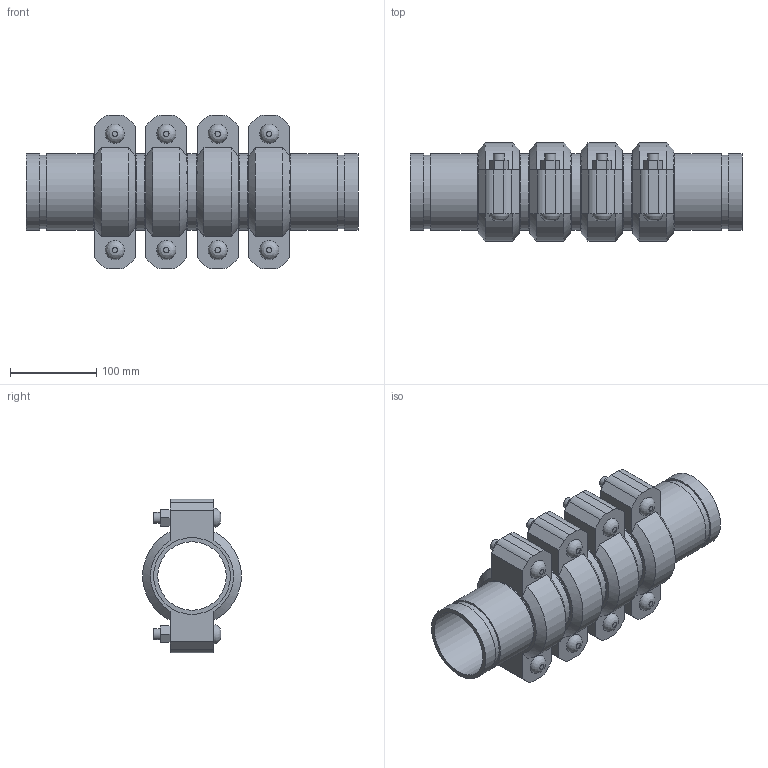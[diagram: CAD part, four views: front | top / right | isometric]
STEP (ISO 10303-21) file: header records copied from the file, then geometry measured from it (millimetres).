
FILE_DESCRIPTION(/* description */ ('VIC SS EXPANSION JOINT 4 COUPLINGS NEUTRAL STYLE 155P (OGS) (POTABLE WATER) ','CAx-IF Rec.Pracs.---Representation and Presentation of Product Manufacturing Information (PMI)---4.0---2014-10-13'),/* implementation_level */ '2;1');
FILE_NAME(/* name */ 'C:\Users\kkamble\AppData\Roaming\Autodesk\ApplicationPlugins\Victaulic.Temp\A324\Victaulic_SS_Expansion Joint_Neutral_4 Couplings_Style 155P (OGS)-Potable Water_4 Coup_Neut_3 (80).stp',/* time_stamp */ '2021-07-16T16:33:30+05:00',/* author */ ('kkamble'),/* organization */ ('Victaulic'),/* preprocessor_version */ 'ST-DEVELOPER v17.2',/* originating_system */ 'Autodesk Inventor 2019',/* authorisation */ '');
FILE_SCHEMA (('AP242_MANAGED_MODEL_BASED_3D_ENGINEERING_MIM_LF { 1 0 10303 442 1 1 4 }'));
Length unit declared in the file: inch
Products named in the file (4): 155P-03.0; Nipple-03.0; Nipple-03.0_1; 075-03.0
Assembly tree (9 placements, depth 2):
  155P-03.0
    Nipple-03.0  x2
    Nipple-03.0_1  x3
    075-03.0  x4
Bounding box: 384.05 x 113.88 x 177.8 mm (x, y, z)
Volume: 1763913.2 mm3; surface area: 464565.3 mm2
Topology: 9 solids, 17 shells, 288 faces, 682 edges, 480 vertices
Faces by surface type: plane 174, cylinder 90, cone 16, bspline 8
Full cylindrical faces by diameter (mm): 12.7 x16, 14.605 x8, 79.35 x5, 82.55 x4, 84.938 x10, 88.9 x23
Entity records: 2785 total; most frequent: CARTESIAN_POINT 493, DIRECTION 461, ORIENTED_EDGE 386, EDGE_CURVE 193, AXIS2_PLACEMENT_3D 184, VERTEX_POINT 138, EDGE_LOOP 107, LINE 93
